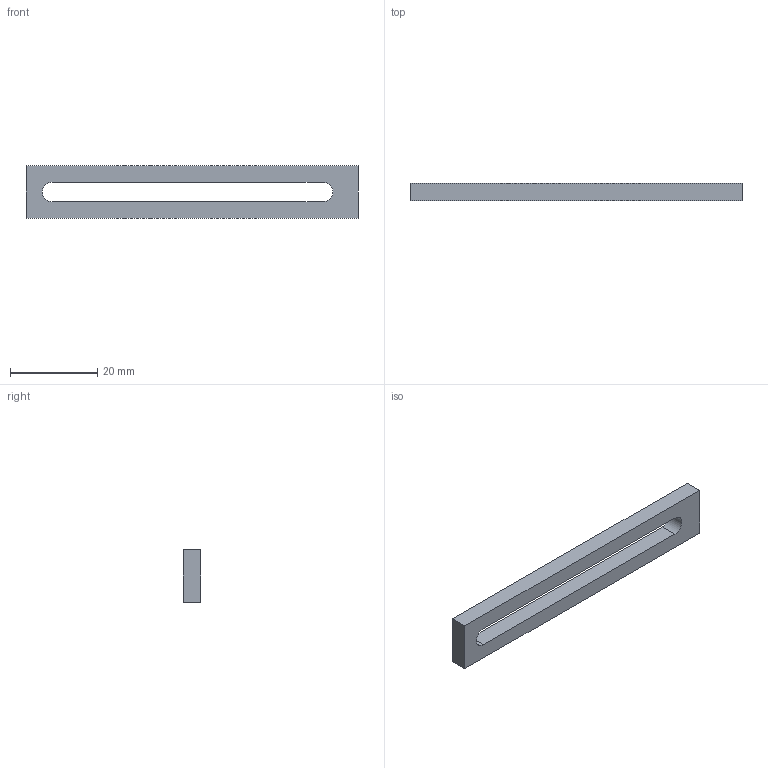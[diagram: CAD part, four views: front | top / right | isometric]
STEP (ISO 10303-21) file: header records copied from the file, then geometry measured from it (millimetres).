
FILE_DESCRIPTION(('Open CASCADE Model'),'2;1');
FILE_NAME('Open CASCADE Shape Model','2026-11-08T06:43:57',('Author'),( 'Open CASCADE'),'Open CASCADE STEP processor 7.8','Open CASCADE 7.8' ,'Unknown');
FILE_SCHEMA(('AUTOMOTIVE_DESIGN { 1 0 10303 214 1 1 1 1 }'));
Length unit declared in the file: millimetre
Products named in the file (1): Open CASCADE STEP translator 7.8 3
Bounding box: 76 x 4 x 12 mm (x, y, z)
Volume: 2468.4 mm3; surface area: 2490.7 mm2
Topology: 1 solids, 1 shells, 10 faces, 24 edges, 16 vertices
Faces by surface type: plane 8, cylinder 2
Entity records: 608 total; most frequent: CARTESIAN_POINT 109, DIRECTION 88, LINE 54, VECTOR 54, ORIENTED_EDGE 48, PCURVE 48, DEFINITIONAL_REPRESENTATION 48, EDGE_CURVE 24
